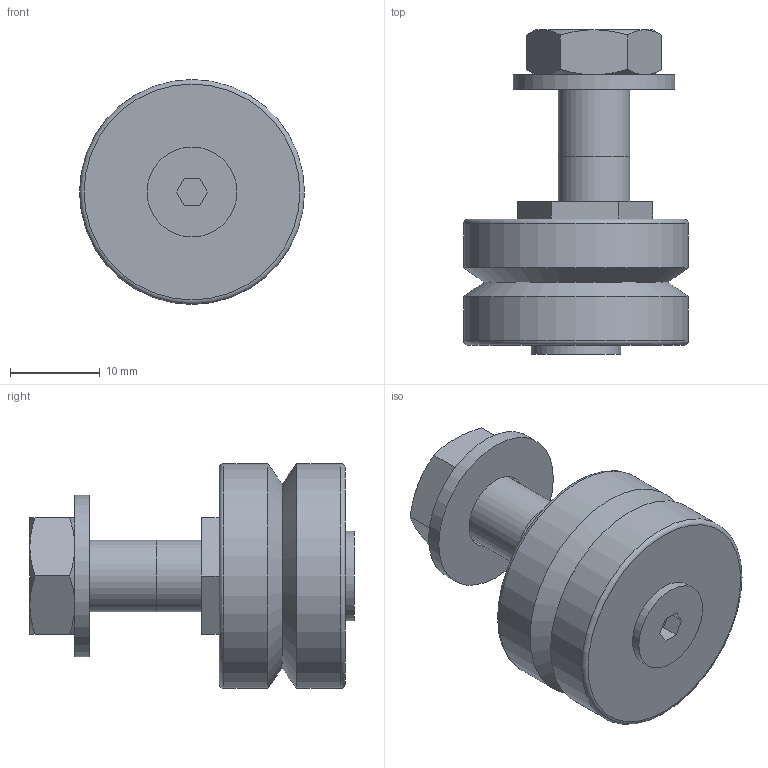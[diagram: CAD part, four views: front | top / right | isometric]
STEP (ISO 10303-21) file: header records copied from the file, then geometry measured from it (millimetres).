
FILE_DESCRIPTION(('STEP AP203'),'1');
FILE_NAME('//192.168.1.1/share/s-4 技術開発/s-4-4_CAD/s-4-4-6_見直し、確認済み/013 修正済み(済)/ジャーナル_TOP/NAL/NAL-25-EW.step','2022-03-11T07:30:23',(' '),(' '),'Spatial InterOp 3D',' ',' ');
FILE_SCHEMA(('CONFIG_CONTROL_DESIGN'));
Length unit declared in the file: millimetre
Products named in the file (3): 1; 2; 3
Bounding box: 25 x 36.05 x 25 mm (x, y, z)
Volume: 8738.2 mm3; surface area: 3890.1 mm2
Topology: 3 solids, 3 shells, 59 faces, 130 edges, 81 vertices
Faces by surface type: plane 34, cone 14, cylinder 8, torus 2, sphere 1
Full cylindrical faces by diameter (mm): 6.75 x1, 8 x2, 8.5 x1, 10 x1, 18 x1, 25 x2
Entity records: 1740 total; most frequent: CARTESIAN_POINT 390, DIRECTION 250, ORIENTED_EDGE 228, EDGE_CURVE 114, AXIS2_PLACEMENT_3D 98, EDGE_LOOP 80, VERTEX_POINT 78, FACE_OUTER_BOUND 70
